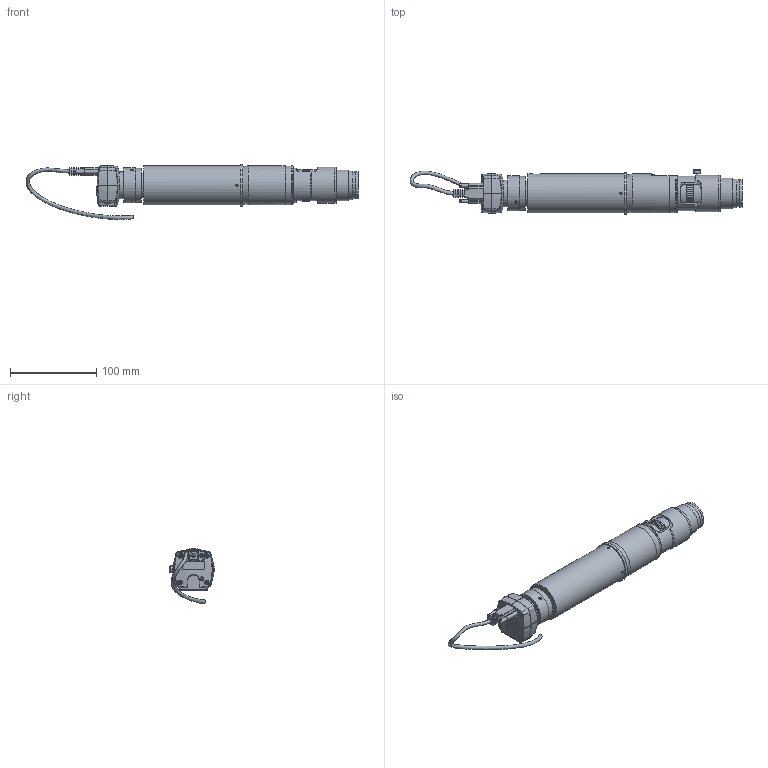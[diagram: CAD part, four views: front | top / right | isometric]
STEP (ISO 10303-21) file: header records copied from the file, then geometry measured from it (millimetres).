
FILE_DESCRIPTION(/* description */ (''),/* implementation_level */ '2;1');
FILE_NAME(/* name */ 'S:\Bureau-Technique\Vidéo\MA 730-Z2-024.stp',/* time_stamp */ '2018-09-28T08:54:20+02:00',/* author */ ('chu'),/* organization */ ('Marcel Aubert'),/* preprocessor_version */ 'ST-DEVELOPER v17.2',/* originating_system */ 'Autodesk Inventor 2019',/* authorisation */ '');
FILE_SCHEMA (('AUTOMOTIVE_DESIGN { 1 0 10303 214 3 1 1 }'));
Products named in the file (1): Pièce1
Bounding box: 385.1 x 51.75 x 63.91 mm (x, y, z)
Volume: 346124.4 mm3; surface area: 83860.8 mm2
Topology: 1 solids, 10 shells, 1137 faces, 3113 edges, 2052 vertices
Faces by surface type: plane 588, cylinder 301, bspline 125, cone 60, torus 44, sphere 19
Full cylindrical faces by diameter (mm): 1.88 x4, 2 x3, 2.3 x2, 2.459 x9, 2.5 x2, 3 x4, 3.2 x3, 3.242 x5, 3.5 x4, 3.9 x2, 4 x3, 5 x2, 7.1 x2, 7.4 x2, 8 x1, 8.6 x3, 19 x2, 20 x3, 22.5 x1, 24.4 x1, 24.605 x2, 26 x2, 26.1 x3, 26.8 x1, 28 x2, 31 x1, 31.7 x1, 33.1 x1, 33.3 x2, 33.35 x1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
Entity records: 60477 total; most frequent: CARTESIAN_POINT 30822, ORIENTED_EDGE 6202, DIRECTION 5663, EDGE_CURVE 3101, AXIS2_PLACEMENT_3D 2127, VERTEX_POINT 2052, LINE 1409, VECTOR 1409
